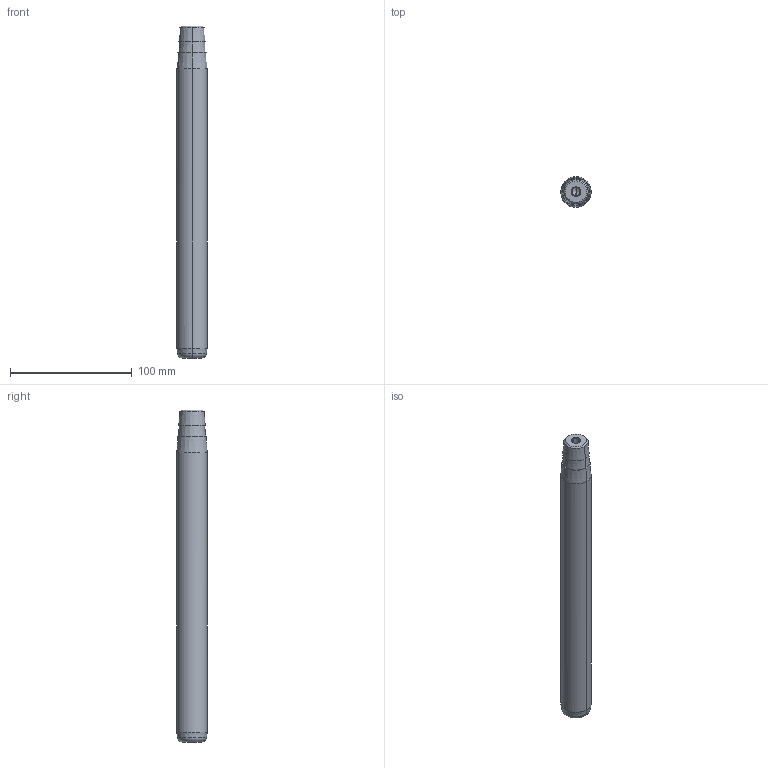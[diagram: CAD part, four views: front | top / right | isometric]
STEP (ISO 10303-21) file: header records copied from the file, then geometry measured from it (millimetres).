
FILE_DESCRIPTION(('CATIA V5 STEP Exchange'),'2;1');
FILE_NAME('C:\Users\Utente\Desktop\IO LAVORO\3D X SITO CF\X SITO\722\722-25x250x273.stp','2021-01-09T08:01:47+00:00',('none'),('none'),'CATIA Version 5 Release 20 GA (IN-10)','CATIA V5 STEP AP203','none');
FILE_SCHEMA(('CONFIG_CONTROL_DESIGN'));
Length unit declared in the file: millimetre
Products named in the file (1): 722-25x250x273
Bounding box: 25 x 25 x 273 mm (x, y, z)
Volume: 128068.2 mm3; surface area: 22827.9 mm2
Topology: 1 solids, 1 shells, 32 faces, 98 edges, 66 vertices
Faces by surface type: cone 22, cylinder 6, plane 2, torus 2
Entity records: 1166 total; most frequent: CARTESIAN_POINT 279, ORIENTED_EDGE 188, DIRECTION 148, EDGE_CURVE 94, AXIS2_PLACEMENT_3D 89, VERTEX_POINT 66, CIRCLE 56, EDGE_LOOP 34
